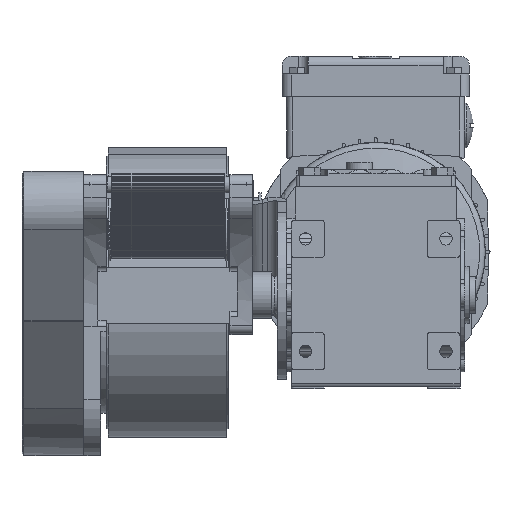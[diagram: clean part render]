
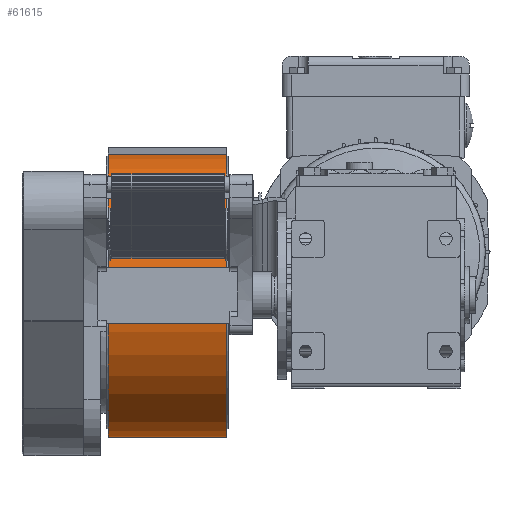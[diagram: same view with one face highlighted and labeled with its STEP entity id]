
A CAD part, left-side view. The second image highlights one B-rep face of the part: STEP entity #61615.
In plain terms, the highlighted cylindrical face has radius 76 mm (diameter 152 mm), a partial arc.
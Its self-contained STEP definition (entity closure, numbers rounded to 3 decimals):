
#566=CYLINDRICAL_SURFACE('',#65243,76.);
#3290=CIRCLE('',#65244,76.);
#3291=CIRCLE('',#65245,76.);
#6127=FACE_OUTER_BOUND('',#9463,.T.);
#9463=EDGE_LOOP('',(#39496,#39497,#39498,#39499));
#13171=LINE('',#89459,#18365);
#13174=LINE('',#89465,#18368);
#18365=VECTOR('',#71976,10.);
#18368=VECTOR('',#71981,10.);
#23697=VERTEX_POINT('',#89457);
#23698=VERTEX_POINT('',#89458);
#23699=VERTEX_POINT('',#89463);
#23700=VERTEX_POINT('',#89464);
#29941=EDGE_CURVE('',#23697,#23698,#13171,.T.);
#29944=EDGE_CURVE('',#23699,#23700,#13174,.T.);
#29945=EDGE_CURVE('',#23700,#23698,#3290,.T.);
#29946=EDGE_CURVE('',#23699,#23697,#3291,.T.);
#39496=ORIENTED_EDGE('',*,*,#29944,.T.);
#39497=ORIENTED_EDGE('',*,*,#29945,.T.);
#39498=ORIENTED_EDGE('',*,*,#29941,.F.);
#39499=ORIENTED_EDGE('',*,*,#29946,.F.);
#61615=ADVANCED_FACE('',(#6127),#566,.T.);
#65243=AXIS2_PLACEMENT_3D('',#89462,#71979,#71980);
#65244=AXIS2_PLACEMENT_3D('',#89466,#71982,#71983);
#65245=AXIS2_PLACEMENT_3D('',#89467,#71984,#71985);
#71976=DIRECTION('',(0.,1.,0.));
#71979=DIRECTION('center_axis',(0.,-1.,0.));
#71980=DIRECTION('ref_axis',(-0.966,0.,-0.259));
#71981=DIRECTION('',(0.,1.,0.));
#71982=DIRECTION('center_axis',(0.,-1.,0.));
#71983=DIRECTION('ref_axis',(-0.139,0.,0.99));
#71984=DIRECTION('center_axis',(0.,-1.,0.));
#71985=DIRECTION('ref_axis',(-0.139,0.,0.99));
#89457=CARTESIAN_POINT('',(124.92,74.221,-99.261));
#89458=CARTESIAN_POINT('',(124.92,137.221,-99.261));
#89459=CARTESIAN_POINT('',(124.92,137.221,-99.261));
#89462=CARTESIAN_POINT('Origin',(96.45,105.721,-28.795));
#89463=CARTESIAN_POINT('',(85.873,74.221,46.466));
#89464=CARTESIAN_POINT('',(85.873,137.221,46.466));
#89465=CARTESIAN_POINT('',(85.873,137.221,46.466));
#89466=CARTESIAN_POINT('Origin',(96.45,137.221,-28.795));
#89467=CARTESIAN_POINT('Origin',(96.45,74.221,-28.795));
